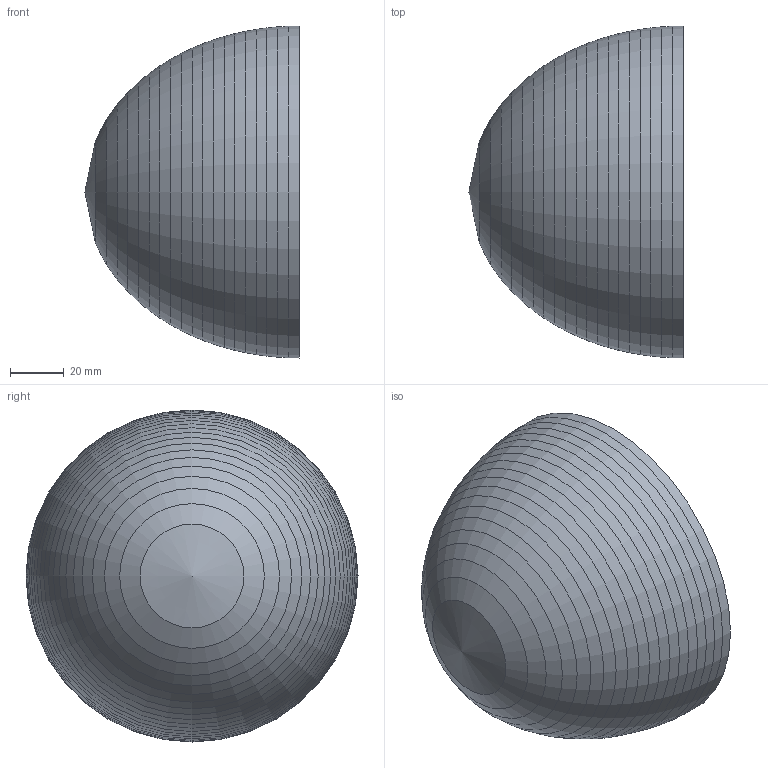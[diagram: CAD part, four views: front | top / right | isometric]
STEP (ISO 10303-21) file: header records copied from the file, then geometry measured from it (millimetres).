
FILE_DESCRIPTION(('Open CASCADE Model'),'2;1');
FILE_NAME('Open CASCADE Shape Model','2026-11-23T20:25:50',('Author'),( 'Open CASCADE'),'Open CASCADE STEP processor 7.9','Open CASCADE 7.9' ,'Unknown');
FILE_SCHEMA(('AUTOMOTIVE_DESIGN { 1 0 10303 214 1 1 1 1 }'));
Length unit declared in the file: millimetre
Products named in the file (3): Open CASCADE STEP translator 7.9 1; Open CASCADE STEP translator 7.9 1.1; Open CASCADE STEP translator 7.9 1.2
Assembly tree (2 placements, depth 2):
  Open CASCADE STEP translator 7.9 1
    Open CASCADE STEP translator 7.9 1.1
    Open CASCADE STEP translator 7.9 1.2
Bounding box: 80 x 124 x 124 mm (x, y, z)
Volume: 102852.8 mm3; surface area: 70856.7 mm2
Topology: 2 solids, 2 shells, 45 faces, 88 edges, 46 vertices
Faces by surface type: cone 40, plane 3, cylinder 2
Full cylindrical faces by diameter (mm): 42 x1, 48 x1
Entity records: 2278 total; most frequent: DIRECTION 398, CARTESIAN_POINT 352, LINE 208, VECTOR 208, ORIENTED_EDGE 172, PCURVE 172, DEFINITIONAL_REPRESENTATION 172, AXIS2_PLACEMENT_3D 92
